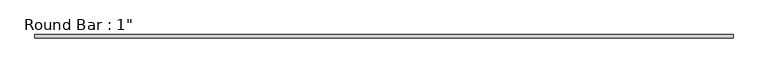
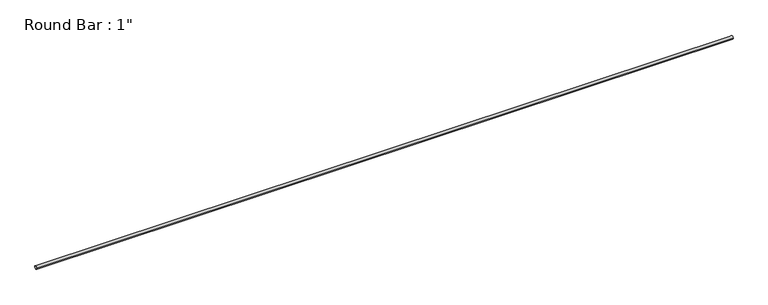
"""IFC4 building model written with IfcOpenShell, lengths in millimetres: member geometry."""

import ifcopenshell
import ifcopenshell.guid

model = None  # the IFC model being written
_history = None  # IfcOwnerHistory: only IFC2X3 demands one
_inside = {}  # id of a spatial element -> (the spatial element, [elements in it])
_under = {}  # id of a project, library or spatial element -> (it, [spatial elements below it])
_declared = {}  # id of a project -> (the project, [libraries it declares])
_typed = {}  # id of a type object -> (the type object, [elements of that type])
_made_of = {}  # id of a material, layer set ... -> (it, [elements and type objects made of it])


def new_model(schema):
    """Start an empty IFC model of exactly this schema.

    Asked for "IFC4X3", IfcOpenShell would pick the latest addendum, in which some entities
    have other attributes; the version numbers below select the first issue.
    IFC2X3 requires an IfcOwnerHistory on every rooted entity: one is made here for all.
    """
    global model, _history
    if schema == "IFC4X3":
        model = ifcopenshell.file(schema_version=(4, 3, 0, 0))
    else:
        model = ifcopenshell.file(schema=schema)
    _inside.clear()
    _under.clear()
    _declared.clear()
    _typed.clear()
    _made_of.clear()
    _history = None
    if model.schema == "IFC2X3":
        org = make("IfcOrganization", Name="unknown")
        user = make(
            "IfcPersonAndOrganization",
            ThePerson=make("IfcPerson", FamilyName="unknown"),
            TheOrganization=org,
        )
        app = make(
            "IfcApplication",
            ApplicationDeveloper=org,
            Version="unknown",
            ApplicationFullName="unknown",
            ApplicationIdentifier="unknown",
        )
        _history = make(
            "IfcOwnerHistory",
            OwningUser=user,
            OwningApplication=app,
            ChangeAction="ADDED",
            CreationDate=0,
        )
    return model


def make(cls, **values):
    """One entity of the class cls with the attributes given. An attribute that is None is left unset."""
    return model.create_entity(
        cls, **{name: value for name, value in values.items() if value is not None}
    )


def rooted(cls, **values):
    """An entity with a GlobalId (a new one), such as an element, a storey or a relation."""
    return make(cls, GlobalId=ifcopenshell.guid.new(), OwnerHistory=_history, **values)


def si_unit(unit_type, name, prefix=None):
    """IfcSIUnit, for example si_unit("LENGTHUNIT", "METRE", prefix="MILLI")."""
    return make("IfcSIUnit", UnitType=unit_type, Prefix=prefix, Name=name)


def assignment(units):
    """IfcUnitAssignment: the units of a project."""
    return None if units is None else make("IfcUnitAssignment", Units=units)


def point(xyz):
    """IfcCartesianPoint."""
    return None if xyz is None else make("IfcCartesianPoint", Coordinates=xyz)


def direction(xyz):
    """IfcDirection."""
    return None if xyz is None else make("IfcDirection", DirectionRatios=xyz)


def frame(location, z_axis=None, x_axis=None):
    """IfcAxis2Placement3D, a coordinate frame: its origin and axes. An axis left out is left unset."""
    return make(
        "IfcAxis2Placement3D",
        Location=point(location),
        Axis=direction(z_axis),
        RefDirection=direction(x_axis),
    )


def frame_2d(location, x_axis=None):
    """IfcAxis2Placement2D, a coordinate frame in the plane: its origin and x axis."""
    return make(
        "IfcAxis2Placement2D", Location=point(location), RefDirection=direction(x_axis)
    )


def origin():
    """The frame at (0, 0, 0) with its axes left unset."""
    return frame((0.0, 0.0, 0.0))


def origin_2d():
    """The frame at (0, 0) in the plane with its x axis left unset."""
    return frame_2d((0.0, 0.0))


def place(relative_to, where):
    """IfcLocalPlacement: puts the frame where relative to a parent placement (None: the world)."""
    return make(
        "IfcLocalPlacement", PlacementRelTo=relative_to, RelativePlacement=where
    )


def context(
    kind, dimensions, precision=None, world=None, true_north=None, identifier=None
):
    """IfcGeometricRepresentationContext, for example the 3D "Model" context."""
    return make(
        "IfcGeometricRepresentationContext",
        ContextIdentifier=identifier,
        ContextType=kind,
        CoordinateSpaceDimension=dimensions,
        Precision=precision,
        WorldCoordinateSystem=world,
        TrueNorth=true_north,
    )


def project(units=None, contexts=None):
    """IfcProject with its units and contexts."""
    return rooted(
        "IfcProject",
        Name="project",
        RepresentationContexts=contexts,
        UnitsInContext=assignment(units),
    )


def spatial(cls, under=None, at=None, **own):
    """A site, building, storey or space (cls), placed at a placement, below another one or the project."""
    s = rooted(cls, ObjectPlacement=at, **own)
    if under is not None:
        _under.setdefault(under.id(), (under, []))[1].append(s)
    return s


def circle_curve(where, radius):
    """IfcCircle in the frame where."""
    return make("IfcCircle", Position=where, Radius=radius)


def trimmed(basis, trim1, trim2, sense, master):
    """IfcTrimmedCurve: the piece of a basis curve between two trims."""
    return make(
        "IfcTrimmedCurve",
        BasisCurve=basis,
        Trim1=trim1,
        Trim2=trim2,
        SenseAgreement=sense,
        MasterRepresentation=master,
    )


def segment(curve, same_sense, transition):
    """IfcCompositeCurveSegment."""
    return make(
        "IfcCompositeCurveSegment",
        Transition=transition,
        SameSense=same_sense,
        ParentCurve=curve,
    )


def composite_curve(segments, self_intersect=None):
    """IfcCompositeCurve: segments joined end to end."""
    return make("IfcCompositeCurve", Segments=segments, SelfIntersect=self_intersect)


def outline(outer, holes=None, kind="AREA"):
    """IfcArbitraryClosedProfileDef: a profile drawn as a closed curve; with holes, ...WithVoids."""
    if holes is None:
        return make("IfcArbitraryClosedProfileDef", ProfileType=kind, OuterCurve=outer)
    return make(
        "IfcArbitraryProfileDefWithVoids",
        ProfileType=kind,
        OuterCurve=outer,
        InnerCurves=holes,
    )


def extrude(swept, where, along, depth):
    """IfcExtrudedAreaSolid: the profile swept, set in the frame where, extruded along a direction by depth."""
    return make(
        "IfcExtrudedAreaSolid",
        SweptArea=swept,
        Position=where,
        ExtrudedDirection=direction(along),
        Depth=depth,
    )


def shape(context_of_items, identifier, shape_type, items):
    """IfcShapeRepresentation: the items that make up one representation, for example the "Body"."""
    return make(
        "IfcShapeRepresentation",
        ContextOfItems=context_of_items,
        RepresentationIdentifier=identifier,
        RepresentationType=shape_type,
        Items=items,
    )


def source(mapping_origin, context_of_items, identifier, shape_type, items):
    """IfcRepresentationMap: a shape defined once, which mapped items show again and again."""
    return make(
        "IfcRepresentationMap",
        MappingOrigin=mapping_origin,
        MappedRepresentation=shape(context_of_items, identifier, shape_type, items),
    )


def transform(
    local_origin,
    x_axis=None,
    y_axis=None,
    z_axis=None,
    scale=None,
    scale2=None,
    scale3=None,
    uniform=True,
):
    """IfcCartesianTransformationOperator3D, or its non-uniform kind. x_axis, y_axis, z_axis: its Axis1, 2, 3."""
    if uniform:
        return make(
            "IfcCartesianTransformationOperator3D",
            Axis1=direction(x_axis),
            Axis2=direction(y_axis),
            LocalOrigin=point(local_origin),
            Scale=scale,
            Axis3=direction(z_axis),
        )
    return make(
        "IfcCartesianTransformationOperator3DnonUniform",
        Axis1=direction(x_axis),
        Axis2=direction(y_axis),
        LocalOrigin=point(local_origin),
        Scale=scale,
        Axis3=direction(z_axis),
        Scale2=scale2,
        Scale3=scale3,
    )


def mapped(mapping_source, mapping_target):
    """IfcMappedItem: shows the shape of a source again, moved by a transform."""
    return make(
        "IfcMappedItem", MappingSource=mapping_source, MappingTarget=mapping_target
    )


def made_of(thing, what):
    """Note that an element or type object is made of a material, layer set ...; save() writes the relation."""
    if what is not None:
        _made_of.setdefault(what.id(), (what, []))[1].append(thing)
    return thing


def element(
    cls,
    number,
    at=None,
    inside=None,
    cuts=None,
    type_object=None,
    material=None,
    context=None,
    identifier="Body",
    shape_type=None,
    held_by="IfcProductDefinitionShape",
    body=None,
    shapes=None,
    **own,
):
    """One element of the class cls, such as IfcWall. Its Tag is "e" and its number.

    at: its placement. inside: the storey or other place that contains it. cuts: it is an
    opening in that element (IfcRelVoidsElement). A single representation is given by context,
    identifier, shape_type and body (its items); several are given by shapes. held_by: the class
    of the entity that holds the representations. save() writes the other relations.
    """
    e = rooted(cls, Tag="e%d" % number, ObjectPlacement=at, **own)
    if body is not None:
        shapes = [shape(context, identifier, shape_type, body)]
    if shapes is not None:
        e.Representation = make(held_by, Representations=shapes)
    if inside is not None:
        _inside.setdefault(inside.id(), (inside, []))[1].append(e)
    if cuts is not None:
        rooted(
            "IfcRelVoidsElement", RelatingBuildingElement=cuts, RelatedOpeningElement=e
        )
    if type_object is not None:
        _typed.setdefault(type_object.id(), (type_object, []))[1].append(e)
    return made_of(e, material)


def aggregate(whole, parts):
    """IfcRelAggregates: a whole, such as a stair, and the parts it consists of."""
    return rooted("IfcRelAggregates", RelatingObject=whole, RelatedObjects=parts)


def save(model, path):
    """Write the relations noted so far, then the file.

    IfcRelAggregates (storeys below a building ...), IfcRelContainedInSpatialStructure (elements
    in a storey), IfcRelDefinesByType, IfcRelAssociatesMaterial and IfcRelDeclares: one each for
    every whole, place, type object, material and project.
    """
    for whole, parts in _under.values():
        aggregate(whole, parts)
    for where, things in _inside.values():
        rooted(
            "IfcRelContainedInSpatialStructure",
            RelatedElements=things,
            RelatingStructure=where,
        )
    for kind, things in _typed.values():
        rooted("IfcRelDefinesByType", RelatedObjects=things, RelatingType=kind)
    for what, things in _made_of.values():
        rooted("IfcRelAssociatesMaterial", RelatedObjects=things, RelatingMaterial=what)
    for by, libraries in _declared.values():
        rooted("IfcRelDeclares", RelatingContext=by, RelatedDefinitions=libraries)
    model.write(path)


def member_3cfdfb2d(model_context):
    return source(origin(), model_context, "Body", "SweptSolid", [
        extrude(outline(composite_curve([segment(trimmed(circle_curve(origin_2d(), 12.7), [point((-12.7, 0.0))], [point((12.7, 0.0))], False, "CARTESIAN"), True, "CONTINUOUS"), segment(trimmed(circle_curve(origin_2d(), 12.7), [point((12.7, 0.0))], [point((-12.7, 0.0))], False, "CARTESIAN"), True, "CONTINUOUS")], self_intersect=False)), frame((-2701.2514011, 0.0, 0.0), z_axis=(1.0, 0.0, 0.0), x_axis=(0.0, 1.0, 0.0)), (0.0, 0.0, 1.0), 5443.1915202),
    ])


if __name__ == "__main__":
    model = new_model("IFC4")
    model_context = context("Model", 3, world=origin())
    ifc_project = project(units=[si_unit("LENGTHUNIT", "METRE", prefix="MILLI")], contexts=[model_context])
    site = spatial("IfcSite", under=ifc_project)
    building = spatial("IfcBuilding", under=site)
    placement = place(None, origin())
    member_shape = member_3cfdfb2d(model_context)
    element("IfcMember", 1, ObjectType="Round Bar : 1\"", at=placement, inside=building, context=model_context, shape_type="MappedRepresentation", body=[
        mapped(member_shape, transform((0.0, 0.0, 0.0), x_axis=(1.0, 0.0, 0.0), y_axis=(0.0, 1.0, 0.0), z_axis=(0.0, 0.0, 1.0))),
    ])
    save(model, "model.ifc")
